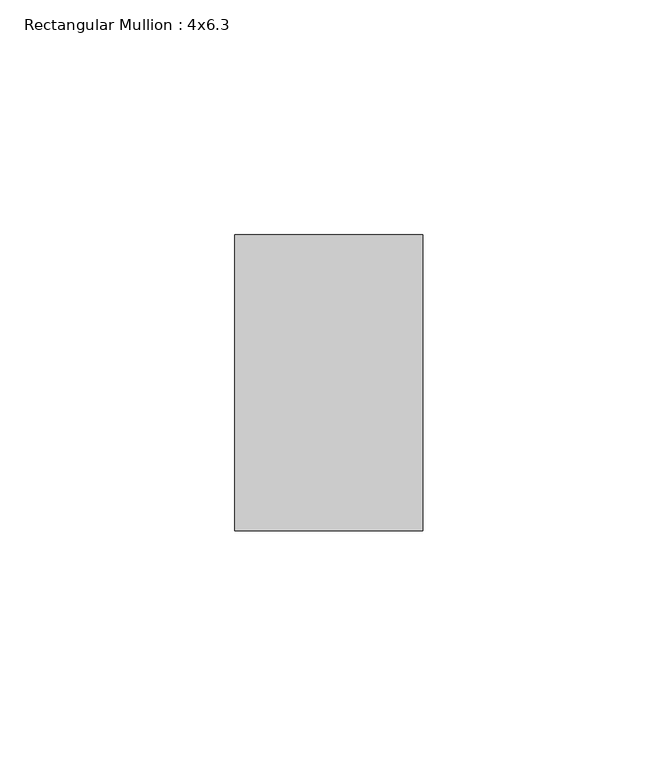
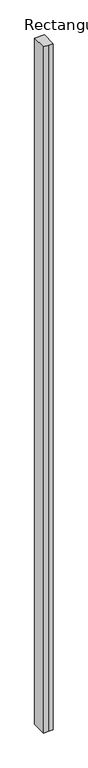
"""IFC4 building model written with IfcOpenShell, lengths in millimetres: member geometry, Rectangular Mullion : 4x6.3."""

from ifc_helpers import new_model, si_unit, frame, origin, place, context, project, spatial, polyline, outline, extrude, source, transform, mapped, element, save


def rectangular_mullion_4x6_3_66fd117a(model_context):
    return source(origin(), model_context, "Body", "SweptSolid", [
        extrude(outline(polyline([(-20.0, 20.0), (-20.0, 83.0), (20.0, 83.0), (20.0, 20.0), (0.0, 20.0), (-20.0, 20.0)])), frame((0.0, 0.0, -2997.9403325), z_axis=(0.0, 0.0, 1.0), x_axis=(1.0, 0.0, 0.0)), (0.0, 0.0, 1.0), 2997.9403325),
    ])


if __name__ == "__main__":
    model = new_model("IFC4")
    model_context = context("Model", 3, world=origin())
    ifc_project = project(units=[si_unit("LENGTHUNIT", "METRE", prefix="MILLI")], contexts=[model_context])
    site = spatial("IfcSite", under=ifc_project)
    building = spatial("IfcBuilding", under=site)
    placement = place(None, origin())
    rectangular_mullion_4x6_3_shape = rectangular_mullion_4x6_3_66fd117a(model_context)
    element("IfcMember", 1, ObjectType="Rectangular Mullion : 4x6.3", at=placement, inside=building, context=model_context, shape_type="MappedRepresentation", body=[
        mapped(rectangular_mullion_4x6_3_shape, transform((0.0, 0.0, 0.0), x_axis=(1.0, 0.0, 0.0), y_axis=(0.0, 1.0, 0.0), z_axis=(0.0, 0.0, 1.0))),
    ])
    save(model, "model.ifc")
